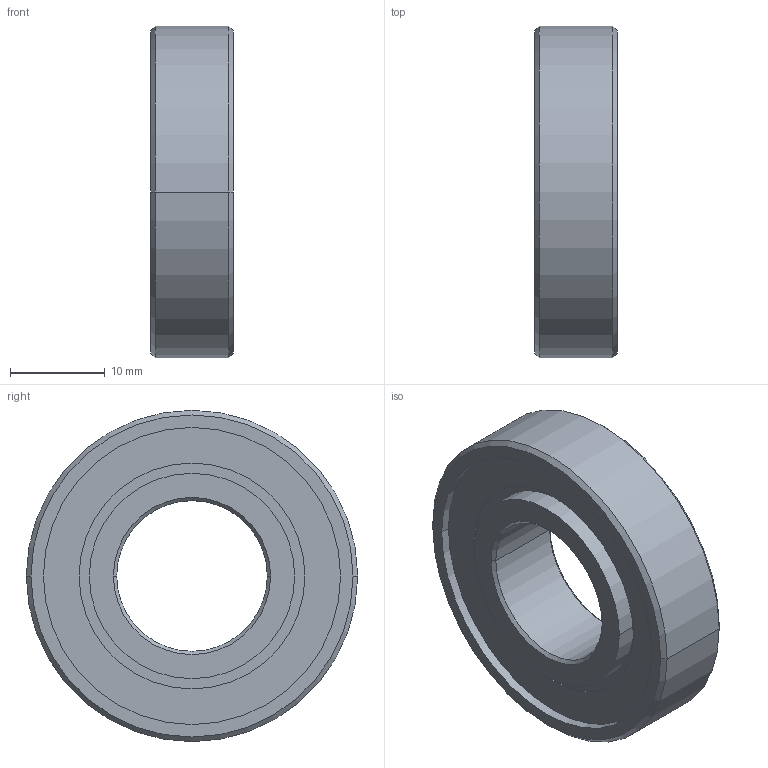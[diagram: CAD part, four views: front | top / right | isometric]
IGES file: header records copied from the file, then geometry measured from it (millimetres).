
Start section:  PTC IGES file: 62110.igs
Global section: file name: 62110.igs; native system: Pro/ENGINEER by Parametric Technology Corporation; preprocessor: 2001430; author: Administrator; organization: Unknown; date: 020620.171514; units: inch
Bounding box: 8.73 x 34.92 x 34.92 mm (x, y, z)
Surface area: 4850.5 mm2 (no closed solid volume)
Topology: 0 solids, 0 shells, 38 faces, 152 edges, 152 vertices
Faces by surface type: revolution 28, bspline 10
